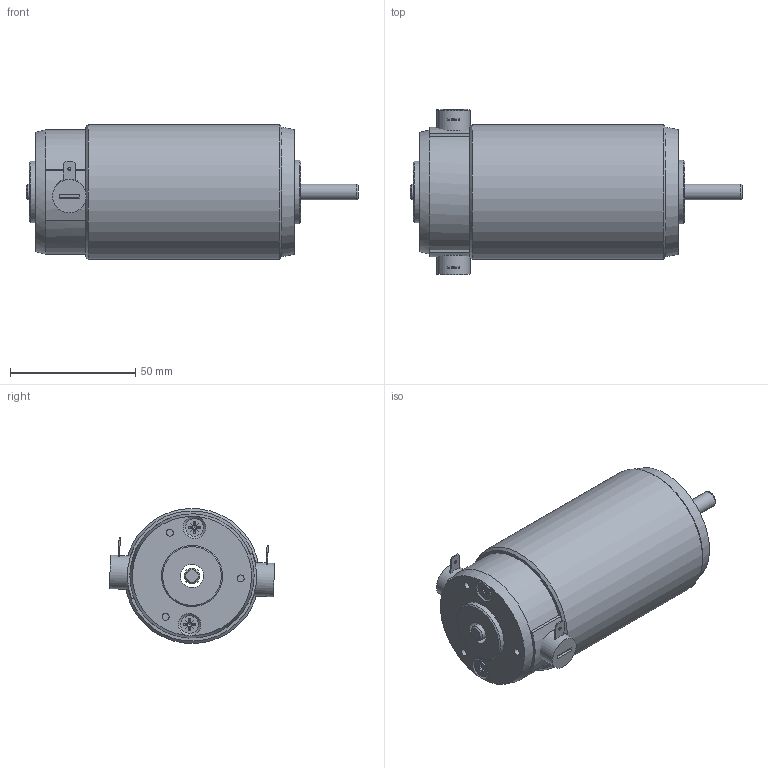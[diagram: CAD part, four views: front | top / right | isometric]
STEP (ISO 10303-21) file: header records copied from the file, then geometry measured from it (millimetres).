
FILE_DESCRIPTION((''),'2;1');
FILE_NAME('D:\연구개발부2팀 1파트\10_진행업무\3D\RM5_SERIES\RM54_TYPE.stp','2014-06-23T10:40:55',('song'),(''),'Autodesk Inventor 2011','Autodesk Inventor 2011','');
FILE_SCHEMA(('AUTOMOTIVE_DESIGN { 1 0 10303 214 1 1 1 1 }'));
Length unit declared in the file: millimetre
Products named in the file (11): RM54_TYPE; RM5_PIPE_pi54XL78.4; RM5_FRONT; RM5_TYPE_REAR_HOUSING; RM5_REAR; BRUSH_HOLDER_ASSY; BRUSH_HOLDER_ASSY_MIR; RM5_BRUSH_COVER_RED; RM5_BRUSH_COVER_BRACK; RM54_SHAFT; AS 1427 Z - 미터 M4 x 50
Assembly tree (11 placements, depth 3):
  RM54_TYPE
    RM5_PIPE_pi54XL78.4
    RM5_FRONT
    RM5_TYPE_REAR_HOUSING
      RM5_REAR
      BRUSH_HOLDER_ASSY
      BRUSH_HOLDER_ASSY_MIR
      RM5_BRUSH_COVER_RED
      RM5_BRUSH_COVER_BRACK
    RM54_SHAFT
    AS 1427 Z - 미터 M4 x 50  x2
Bounding box: 132.6 x 66.18 x 53.89 mm (x, y, z)
Volume: 85463.5 mm3; surface area: 47655.7 mm2
Topology: 10 solids, 10 shells, 189 faces, 459 edges, 300 vertices
Faces by surface type: plane 96, cylinder 43, cone 41, torus 9
Full cylindrical faces by diameter (mm): 1.3 x2, 2.8 x7, 3.571 x2, 4 x4, 4.2 x2, 5.76 x3, 6.334 x1, 7 x2, 9.3 x2, 11 x4, 13.4 x2, 24.5 x1, 25.4 x1, 46 x2, 49.6 x1, 54 x1
Entity records: 4639 total; most frequent: CARTESIAN_POINT 1103, DIRECTION 694, ORIENTED_EDGE 564, AXIS2_PLACEMENT_3D 289, EDGE_CURVE 282, EDGE_LOOP 238, VERTEX_POINT 212, FACE_OUTER_BOUND 148
